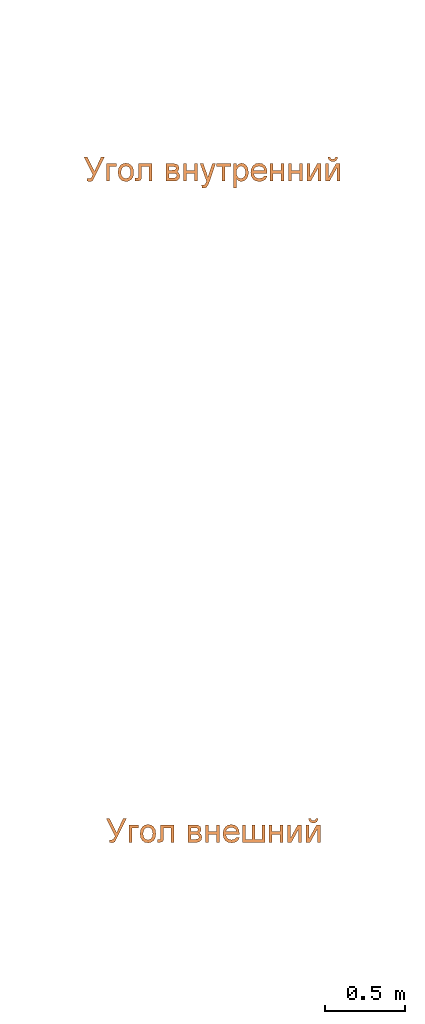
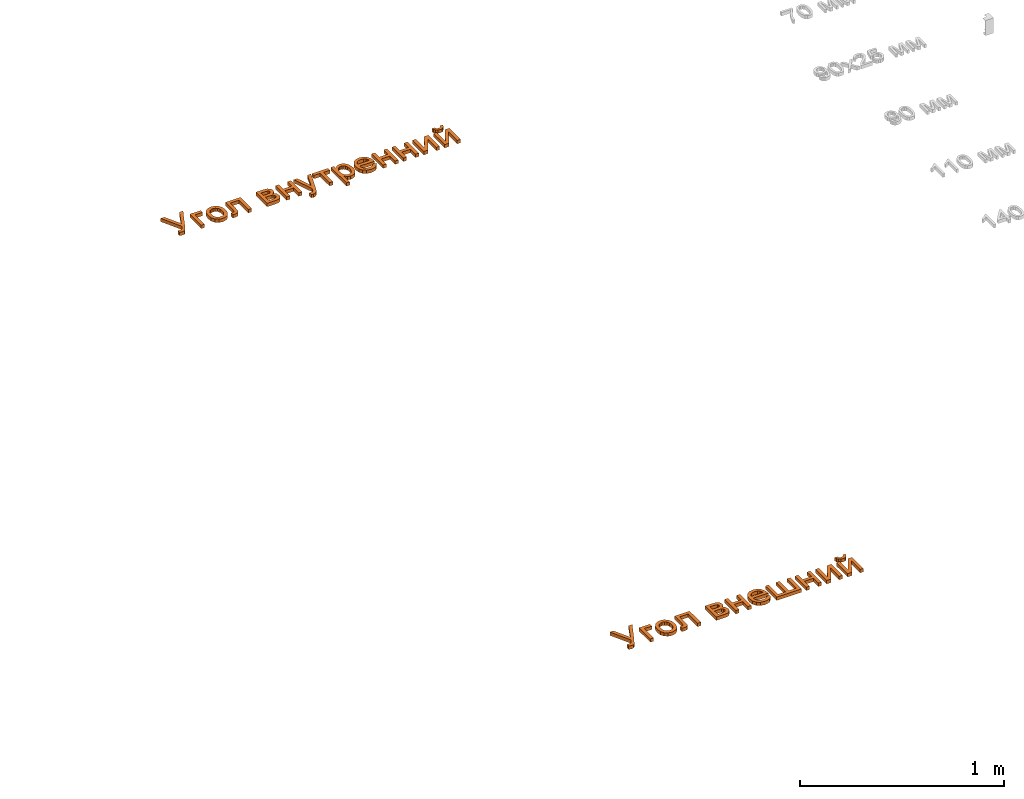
# One storey, part 24 of 87: 2 proxies.
"""IFC2X3 building model written with IfcOpenShell, lengths in millimetres."""

from ifc_helpers import new_model, entity, si_unit, converted_unit, derived_unit, direction, frame, origin, place, context, subcontext, project, spatial, polyline, outline, extrude, element, save


model = new_model("IFC2X3")

# Units and contexts
model_context = context("Model", 3, precision=0.01, world=origin(), true_north=direction((6.12303176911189e-17, 1.0)))
body_context = subcontext(model_context, "Body", "Model", "MODEL_VIEW")
ifc_project = project(units=[si_unit("LENGTHUNIT", "METRE", prefix="MILLI"), si_unit("AREAUNIT", "SQUARE_METRE"), si_unit("VOLUMEUNIT", "CUBIC_METRE"), converted_unit("PLANEANGLEUNIT", "DEGREE", entity("IfcRatioMeasure", 0.0174532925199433), si_unit("PLANEANGLEUNIT", "RADIAN"), dimensions=[0, 0, 0, 0, 0, 0, 0]), si_unit("MASSUNIT", "GRAM", prefix="KILO"), derived_unit("MASSDENSITYUNIT", [(si_unit("MASSUNIT", "GRAM", prefix="KILO"), 1), (si_unit("LENGTHUNIT", "METRE"), -3)]), si_unit("TIMEUNIT", "SECOND"), si_unit("FREQUENCYUNIT", "HERTZ"), si_unit("THERMODYNAMICTEMPERATUREUNIT", "DEGREE_CELSIUS"), derived_unit("THERMALTRANSMITTANCEUNIT", [(si_unit("MASSUNIT", "GRAM", prefix="KILO"), 1), (si_unit("THERMODYNAMICTEMPERATUREUNIT", "KELVIN"), -1), (si_unit("TIMEUNIT", "SECOND"), -3)]), derived_unit("VOLUMETRICFLOWRATEUNIT", [(si_unit("LENGTHUNIT", "METRE"), 3), (si_unit("TIMEUNIT", "SECOND"), -1)]), si_unit("ELECTRICCURRENTUNIT", "AMPERE"), si_unit("ELECTRICVOLTAGEUNIT", "VOLT"), si_unit("POWERUNIT", "WATT"), si_unit("FORCEUNIT", "NEWTON", prefix="KILO"), si_unit("ILLUMINANCEUNIT", "LUX"), si_unit("LUMINOUSFLUXUNIT", "LUMEN"), si_unit("LUMINOUSINTENSITYUNIT", "CANDELA"), derived_unit("USERDEFINED", [(si_unit("MASSUNIT", "GRAM", prefix="KILO"), -1), (si_unit("LENGTHUNIT", "METRE"), -2), (si_unit("TIMEUNIT", "SECOND"), 3), (si_unit("LUMINOUSFLUXUNIT", "LUMEN"), 1)]), derived_unit("LINEARVELOCITYUNIT", [(si_unit("LENGTHUNIT", "METRE"), 1), (si_unit("TIMEUNIT", "SECOND"), -1)]), si_unit("PRESSUREUNIT", "PASCAL"), derived_unit("USERDEFINED", [(si_unit("LENGTHUNIT", "METRE"), -2), (si_unit("MASSUNIT", "GRAM", prefix="KILO"), 1), (si_unit("TIMEUNIT", "SECOND"), -2)])], contexts=[model_context])

# Site, building, storey
site_placement = place(None, origin())
site = spatial("IfcSite", under=ifc_project, at=site_placement, Name="Default", CompositionType="ELEMENT")
building_placement = place(site_placement, origin())
building = spatial("IfcBuilding", under=site, at=building_placement, Name="Наименование здания", CompositionType="ELEMENT")
storey_placement = place(building_placement, origin())
storey = spatial("IfcBuildingStorey", under=building, at=storey_placement, Name="Этаж 01", CompositionType="ELEMENT", Elevation=0.0)

# Proxies
proxy_1_placement = place(storey_placement, origin())
element("IfcBuildingElementProxy", 1, at=proxy_1_placement, inside=storey, Name="Текст модели:150 мм Arial", ObjectType="Текст модели:150 мм Arial", context=body_context, shape_type="SweptSolid", body=[
    extrude(outline(polyline([(-106.701123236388, 2.54904117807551), (-97.296241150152, -16.069290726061), (2.68445330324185, -16.0537927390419), (-58.6980742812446, -92.4799756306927), (-49.3761276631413, -110.934124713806), (29.6124181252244, -6.94385161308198), (48.3399438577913, 19.9502964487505), (49.5661580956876, 28.8436959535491), (46.5690129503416, 38.5506036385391), (36.8208226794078, 52.6266857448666), (22.1100419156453, 45.1956678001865), (28.7946406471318, 31.9625324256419), (30.0108133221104, 20.2534710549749), (17.5632614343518, 2.54904117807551), (-106.701123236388, 2.54904117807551)])), frame((8746.61851500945, -9030.83626034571, 0.0), z_axis=(0.0, 0.0, -1.0), x_axis=(0.450880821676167, -0.892584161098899, 0.0)), (0.0, 0.0, -1.0), 20.0),
    extrude(outline(polyline([(-43.1648207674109, -26.6837073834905), (67.4940833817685, -26.6837073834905), (67.4940833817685, -7.84814923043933), (-24.3292626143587, -7.84814923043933), (-24.3292626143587, 34.5318566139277), (-43.1648207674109, 34.5318566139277), (-43.1648207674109, -26.6837073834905)])), frame((8865.36140702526, -9019.93622339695, 0.0), z_axis=(0.0, 0.0, 1.0), x_axis=(0.0, -1.0, 0.0)), (0.0, 0.0, 1.0), 20.0),
    extrude(outline(polyline([(-11.1946000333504, -52.2426443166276), (13.7256178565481, -52.2426443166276), (33.0962748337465, -44.5759588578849), (46.3022849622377, -30.4665992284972), (52.7285623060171, -11.1385767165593), (52.8795704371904, 2.26160042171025), (49.5396030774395, 15.0586597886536), (42.9102470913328, 26.3612191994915), (33.193089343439, 35.2778964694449), (19.4724914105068, 41.8007990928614), (0.832814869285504, 45.9220345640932), (-22.8762356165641, 45.7172545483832), (-41.8930612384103, 37.8901775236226), (-55.1425891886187, 23.7682718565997), (-61.5497466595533, 4.67900591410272), (-60.9951142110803, -13.6515433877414), (-53.9645370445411, -29.8701936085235), (-37.064672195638, -44.548758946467), (-11.1946000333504, -52.2426443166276)]), holes=[polyline([(-8.64857835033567, -33.5799173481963), (-25.2263685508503, -29.0848574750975), (-36.3325046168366, -20.9461821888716), (-42.1575488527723, -10.2052592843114), (-42.8920635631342, 2.09654344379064), (-38.8516378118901, 13.6120893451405), (-30.3014219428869, 22.3586496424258), (-17.5331679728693, 27.2345846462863), (-0.83862791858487, 27.1382546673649), (16.1172354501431, 22.5908646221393), (27.4101305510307, 14.4263394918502), (33.3060231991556, 3.69417972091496), (34.0708792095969, -8.55611424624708), (30.0134303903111, -20.1946478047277), (21.4625840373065, -28.9457632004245), (8.5360208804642, -33.7580048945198), (-8.64857835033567, -33.5799173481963)])]), frame((8962.59517308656, -9036.02697310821, 0.0), z_axis=(0.0, 0.0, 1.0), x_axis=(0.137105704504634, -0.990556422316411, 0.0)), (0.0, 0.0, 1.0), 20.0),
    extrude(outline(polyline([(-74.053495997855, 18.817164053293), (-74.053495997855, -65.9428476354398), (36.4950435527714, -65.9428476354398), (36.4950435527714, -47.1072894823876), (-55.2179378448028, -47.1072894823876), (-55.2179378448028, -0.0183940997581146), (-2.42687153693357, -0.0183940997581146), (21.9269165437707, 1.25079878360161), (32.2092183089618, 8.2221625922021), (36.6054081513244, 24.7032759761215), (35.6489149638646, 40.007166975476), (17.7698499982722, 40.007166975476), (17.7698499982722, 31.5826692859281), (16.6110217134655, 23.0662010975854), (12.9322017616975, 19.6632926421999), (-3.49372932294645, 18.817164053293), (-74.053495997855, 18.817164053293)])), frame((9057.62266907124, -9050.82489862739, 0.0), z_axis=(0.0, 0.0, -1.0), x_axis=(0.0, -1.0, 0.0)), (0.0, 0.0, -1.0), 20.0),
    extrude(outline(polyline([(-56.942877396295, -61.1019147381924), (53.7160267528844, -61.1019147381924), (53.7160267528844, -13.2404671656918), (51.7202669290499, 3.22225211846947), (45.7329874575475, 15.2335992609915), (35.6254296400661, 22.8211654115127), (21.2688347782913, 26.0125417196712), (3.51852851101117, 20.9725583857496), (-6.69019685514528, 8.31741775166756), (-16.0160054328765, 18.0662906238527), (-29.0942103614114, 21.3036521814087), (-45.1890476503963, 15.9509691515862), (-54.4228857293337, 3.14867571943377), (-56.942877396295, -19.6048256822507), (-56.942877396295, -61.1019147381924)]), holes=[polyline([(-14.562871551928, -42.2663565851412), (-38.1073192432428, -42.2663565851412), (-38.1073192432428, -23.0629164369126), (-35.4953570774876, -3.30765329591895), (-31.8809164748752, 1.02415719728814), (-26.2615189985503, 2.46809402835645), (-19.3453374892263, -0.824449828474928), (-15.5193647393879, -8.29245433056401), (-14.562871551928, -23.6515276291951), (-14.562871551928, -42.2663565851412)]), polyline([(34.8804685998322, -42.2663565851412), (4.2726866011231, -42.2663565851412), (4.2726866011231, -21.0027772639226), (5.37633258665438, -4.42969338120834), (10.6554392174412, 3.9580161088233), (19.7237303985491, 7.17698356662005), (26.8376484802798, 5.56749983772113), (31.4775601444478, 1.32765984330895), (34.8804685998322, -19.1633672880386), (34.8804685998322, -42.2663565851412)])]), frame((9271.78188790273, -9033.71428002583, 0.0), z_axis=(0.0, 0.0, 1.0), x_axis=(0.0, -1.0, 0.0)), (0.0, 0.0, 1.0), 20.0),
    extrude(outline(polyline([(-54.1522296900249, -43.557228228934), (56.5066744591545, -43.557228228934), (56.5066744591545, -24.7216700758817), (7.06333430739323, -24.7216700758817), (7.06333430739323, 24.7216700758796), (56.5066744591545, 24.7216700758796), (56.5066744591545, 43.5572282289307), (-54.1522296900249, 43.5572282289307), (-54.1522296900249, 24.7216700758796), (-11.7722238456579, 24.7216700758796), (-11.7722238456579, -24.7216700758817), (-54.1522296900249, -24.7216700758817), (-54.1522296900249, -43.557228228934)])), frame((9364.89610554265, -9030.92363231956, 0.0), z_axis=(0.0, 0.0, 1.0), x_axis=(0.0, -1.0, 0.0)), (0.0, 0.0, 1.0), 20.0),
    extrude(outline(polyline([(-14.0627784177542, -63.689784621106), (-2.30982667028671, -63.689784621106), (11.223599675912, -56.6043892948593), (19.2677475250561, -41.4042581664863), (24.1483344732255, -15.3233337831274), (39.1861017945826, 103.403530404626), (19.867342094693, 99.4533686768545), (11.3764058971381, 32.0809099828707), (8.47999679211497, 9.33454668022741), (-3.6875008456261, 31.929600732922), (-36.7914083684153, 87.8681928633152), (-56.2543379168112, 83.8885523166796), (5.04686591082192, -16.1124679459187), (4.51901081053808, -20.8765214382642), (2.25144479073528, -35.4962883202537), (-1.9581535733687, -42.2710621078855), (-10.3000835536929, -46.0982994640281), (-20.0027604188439, -46.3925118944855), (-14.0627784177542, -63.689784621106)])), frame((9463.24322558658, -9070.22875782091, 0.0), z_axis=(0.0, 0.0, 1.0), x_axis=(0.97972889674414, -0.200327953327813, 0.0)), (0.0, 0.0, 1.0), 20.0),
    extrude(outline(polyline([(-37.082505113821, -44.7344506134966), (-18.2469469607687, -44.7344506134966), (-18.2469469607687, -9.41777907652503), (73.5763990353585, -9.41777907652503), (73.5763990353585, 9.41777907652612), (-18.2469469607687, 9.41777907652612), (-18.2469469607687, 44.7344506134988), (-37.082505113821, 44.7344506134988), (-37.082505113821, -44.7344506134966)])), frame((9573.26446761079, -9013.85390774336, 0.0), z_axis=(0.0, 0.0, 1.0), x_axis=(0.0, -1.0, 0.0)), (0.0, 0.0, 1.0), 20.0),
    extrude(outline(polyline([(-51.3898957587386, -92.5503727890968), (-32.5543376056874, -92.5503727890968), (-32.5543376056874, -35.4550871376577), (-20.6165668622, -47.6871634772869), (-4.22742397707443, -52.5248117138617), (7.98165973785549, -50.7175914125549), (19.5929352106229, -45.2959305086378), (29.5625372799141, -36.4851567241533), (36.8466007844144, -24.5105977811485), (41.3025714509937, -10.1034191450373), (42.7878950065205, 6.0052137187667), (37.5271824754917, 35.0311031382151), (30.9972770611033, 46.7849328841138), (21.9289858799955, 55.5589184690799), (10.7913584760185, 61.0219660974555), (-1.94655560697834, 62.8429819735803), (-19.531314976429, 57.6374517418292), (-32.5543376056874, 42.0208610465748), (-32.5543376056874, 60.4885372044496), (-51.3898957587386, 60.4885372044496), (-51.3898957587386, -92.5503727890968)]), holes=[polyline([(-32.5543376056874, 4.27616834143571), (-30.3792353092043, 21.3596884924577), (-23.8539284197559, 33.8354866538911), (-14.5051272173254, 41.4644395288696), (-3.85954198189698, 44.0074238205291), (6.7446565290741, 41.61619085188), (15.7485683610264, 34.4424919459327), (21.9013947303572, 22.4679330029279), (23.9523368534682, 5.67411992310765), (21.8508109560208, -11.8462600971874), (15.5462332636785, -24.0875334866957), (6.29859960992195, -31.2888235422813), (-4.63209417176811, -33.6892535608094), (-15.3880440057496, -31.371596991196), (-24.405751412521, -24.4186272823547), (-30.5171910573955, -12.6096152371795), (-32.5543376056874, 4.27616834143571)])]), frame((9685.86992736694, -9037.25993983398, 0.0)), (0.0, 0.0, 1.0), 20.0),
    extrude(outline(polyline([(-12.1519235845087, -30.5627594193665), (-23.3028322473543, -45.4710024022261), (-8.67600558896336, -50.3662606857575), (6.18277634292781, -49.9698260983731), (20.8164252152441, -44.1721168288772), (34.7678526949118, -32.8635510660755), (47.4570640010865, -14.3885693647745), (51.2430729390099, 5.61202992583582), (45.9060763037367, 25.8663302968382), (31.2262708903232, 45.1024152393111), (10.9154740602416, 59.677009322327), (-9.99269287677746, 64.6676720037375), (-29.9463894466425, 60.6331852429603), (-47.3937751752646, 48.1323309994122), (-58.8653278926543, 30.7635073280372), (-61.9660241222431, 11.0147969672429), (-56.1560561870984, -9.52443743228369), (-40.895616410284, -29.2648332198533), (-37.1706876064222, -32.7160206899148), (21.6964908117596, 28.1133970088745), (29.5607979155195, 15.965698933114), (31.7422008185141, 3.31507577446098), (28.7208128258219, -8.97205129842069), (20.9767472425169, -20.0292611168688), (5.30526907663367, -30.5627594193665), (-12.1519235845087, -30.5627594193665)]), holes=[polyline([(8.16121838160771, 41.2120477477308), (-37.6840592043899, -6.16140575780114), (-43.0633748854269, 2.58957596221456), (-44.705822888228, 11.1286426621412), (-41.8277013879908, 23.6248066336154), (-33.8073361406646, 35.0865524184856), (-23.7122716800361, 42.9855035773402), (-12.6145549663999, 46.8552978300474), (-1.62109020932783, 46.3720932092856), (8.16121838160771, 41.2120477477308)])]), frame((9796.91060105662, -9041.94648054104, 0.0), z_axis=(0.0, 0.0, -1.0), x_axis=(-0.695421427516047, -0.718602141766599, 0.0)), (0.0, 0.0, -1.0), 20.0),
    extrude(outline(polyline([(-54.1522296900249, -43.5572282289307), (56.5066744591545, -43.5572282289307), (56.5066744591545, -24.7216700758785), (7.06333430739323, -24.7216700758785), (7.06333430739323, 24.7216700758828), (56.5066744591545, 24.7216700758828), (56.5066744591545, 43.5572282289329), (-54.1522296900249, 43.5572282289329), (-54.1522296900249, 24.7216700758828), (-11.7722238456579, 24.7216700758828), (-11.7722238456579, -24.7216700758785), (-54.1522296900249, -24.7216700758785), (-54.1522296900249, -43.5572282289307)])), frame((9908.77284721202, -9030.92363231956, 0.0), z_axis=(0.0, 0.0, 1.0), x_axis=(0.0, -1.0, 0.0)), (0.0, 0.0, 1.0), 20.0),
    extrude(outline(polyline([(-54.1522296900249, -43.5572282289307), (56.5066744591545, -43.5572282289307), (56.5066744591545, -24.7216700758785), (7.06333430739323, -24.7216700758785), (7.06333430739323, 24.7216700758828), (56.5066744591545, 24.7216700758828), (56.5066744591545, 43.5572282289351), (-54.1522296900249, 43.5572282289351), (-54.1522296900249, 24.7216700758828), (-11.7722238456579, 24.7216700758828), (-11.7722238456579, -24.7216700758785), (-54.1522296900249, -24.7216700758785), (-54.1522296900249, -43.5572282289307)])), frame((10024.1406408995, -9030.92363231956, 0.0), z_axis=(0.0, 0.0, 1.0), x_axis=(0.0, -1.0, 0.0)), (0.0, 0.0, 1.0), 20.0),
    extrude(outline(polyline([(-55.3809555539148, -44.7638811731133), (55.2779485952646, -44.7638811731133), (55.2779485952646, -20.1157874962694), (-28.5991463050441, 25.8694619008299), (55.2779485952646, 25.8694619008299), (55.2779485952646, 44.7050200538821), (-55.3809555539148, 44.7050200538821), (-55.3809555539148, 20.3512319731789), (29.0111741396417, -25.9283230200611), (-55.3809555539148, -25.9283230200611), (-55.3809555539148, -44.7638811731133)])), frame((10140.7150875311, -9032.15235818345, 0.0), z_axis=(0.0, 0.0, 1.0), x_axis=(0.0, -1.0, 0.0)), (0.0, 0.0, 1.0), 20.0),
    extrude(outline(polyline([(-18.908681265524, -8.80638330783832), (-25.1654169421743, -21.4719280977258), (-13.0047964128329, -24.0889504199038), (-2.33253524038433, -22.5548007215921), (6.51477397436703, -17.010944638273), (13.2005386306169, -7.5988478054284), (17.0548336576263, 4.29420862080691), (16.43011903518, 15.3019521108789), (11.377255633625, 25.1120324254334), (1.94710432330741, 33.4120993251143), (-4.30963135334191, 20.7465545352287), (2.85974295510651, 11.2962766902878), (1.28449863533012, 0.175114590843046), (-6.94780563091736, -8.80638330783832), (-18.908681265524, -8.80638330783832)])), frame((10258.6187706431, -8949.7984261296, 0.0), z_axis=(0.0, 0.0, -1.0), x_axis=(-0.442902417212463, -0.896569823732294, 0.0)), (0.0, 0.0, -1.0), 20.0),
    extrude(outline(polyline([(-55.3809555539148, -44.7638811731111), (55.2779485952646, -44.7638811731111), (55.2779485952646, -20.1157874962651), (-28.5991463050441, 25.8694619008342), (55.2779485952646, 25.8694619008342), (55.2779485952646, 44.7050200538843), (-55.3809555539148, 44.7050200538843), (-55.3809555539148, 20.3512319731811), (29.0111741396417, -25.9283230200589), (-55.3809555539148, -25.9283230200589), (-55.3809555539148, -44.7638811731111)])), frame((10258.4373259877, -9032.15235818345, 0.0), z_axis=(0.0, 0.0, 1.0), x_axis=(0.0, -1.0, 0.0)), (0.0, 0.0, 1.0), 20.0),
])
proxy_2_placement = place(storey_placement, origin())
element("IfcBuildingElementProxy", 2, at=proxy_2_placement, inside=storey, Name="Текст модели:150 мм Arial", ObjectType="Текст модели:150 мм Arial", context=body_context, shape_type="SweptSolid", body=[
    extrude(outline(polyline([(-106.70112323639, 2.54904117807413), (-97.2962411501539, -16.0692907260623), (2.68445330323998, -16.0537927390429), (-58.6980742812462, -92.4799756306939), (-49.3761276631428, -110.934124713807), (29.6124181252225, -6.94385161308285), (48.3399438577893, 19.9502964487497), (49.5661580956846, 28.8436959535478), (46.5690129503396, 38.5506036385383), (36.8208226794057, 52.6266857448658), (22.1100419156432, 45.1956678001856), (28.7946406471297, 31.9625324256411), (30.0108133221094, 20.2534710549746), (17.5632614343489, 2.54904117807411), (-106.70112323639, 2.54904117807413)])), frame((8885.32745437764, -13184.1258324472, 0.0), z_axis=(0.0, 0.0, -1.0), x_axis=(0.45088082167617, -0.892584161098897, 0.0)), (0.0, 0.0, -1.0), 20.0),
    extrude(outline(polyline([(-43.164820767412, -26.6837073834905), (67.4940833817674, -26.6837073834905), (67.4940833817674, -7.84814923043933), (-24.3292626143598, -7.84814923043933), (-24.3292626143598, 34.5318566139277), (-43.164820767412, 34.5318566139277), (-43.164820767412, -26.6837073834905)])), frame((9004.07034639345, -13173.2257954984, 0.0), z_axis=(0.0, 0.0, 1.0), x_axis=(0.0, -1.0, 0.0)), (0.0, 0.0, 1.0), 20.0),
    extrude(outline(polyline([(-11.19460003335, -52.2426443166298), (13.7256178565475, -52.2426443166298), (33.096274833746, -44.5759588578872), (46.3022849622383, -30.4665992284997), (52.7285623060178, -11.1385767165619), (52.8795704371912, 2.26160042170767), (49.5396030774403, 15.058659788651), (42.9102470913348, 26.3612191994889), (33.19308934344, 35.2778964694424), (19.4724914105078, 41.800799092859), (0.832814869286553, 45.9220345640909), (-22.8762356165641, 45.7172545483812), (-41.8930612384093, 37.8901775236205), (-55.1425891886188, 23.7682718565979), (-61.5497466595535, 4.67900591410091), (-60.9951142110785, -13.6515433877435), (-53.9645370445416, -29.8701936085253), (-37.0646721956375, -44.5487589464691), (-11.19460003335, -52.2426443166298)]), holes=[polyline([(-8.64857835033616, -33.5799173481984), (-25.2263685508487, -29.0848574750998), (-36.3325046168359, -20.9461821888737), (-42.1575488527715, -10.2052592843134), (-42.8920635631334, 2.09654344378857), (-38.8516378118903, 13.6120893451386), (-30.301421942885, 22.3586496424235), (-17.5331679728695, 27.2345846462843), (-0.83862791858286, 27.1382546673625), (16.1172354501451, 22.5908646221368), (27.4101305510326, 14.4263394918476), (33.3060231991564, 3.69417972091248), (34.0708792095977, -8.55611424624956), (30.0134303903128, -20.1946478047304), (21.4625840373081, -28.945763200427), (8.53602088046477, -33.7580048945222), (-8.64857835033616, -33.5799173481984)])]), frame((9101.30411245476, -13189.3165452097, 0.0), z_axis=(0.0, 0.0, 1.0), x_axis=(0.13710570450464, -0.99055642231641, 0.0)), (0.0, 0.0, 1.0), 20.0),
    extrude(outline(polyline([(-74.0534959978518, 18.8171640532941), (-74.0534959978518, -65.9428476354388), (36.4950435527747, -65.9428476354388), (36.4950435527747, -47.1072894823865), (-55.2179378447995, -47.1072894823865), (-55.2179378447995, -0.0183940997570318), (-2.42687153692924, -0.0183940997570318), (21.926916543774, 1.25079878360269), (32.209218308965, 8.22216259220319), (36.6054081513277, 24.7032759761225), (35.6489149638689, 40.0071669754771), (17.7698499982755, 40.0071669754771), (17.7698499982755, 31.5826692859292), (16.6110217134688, 23.0662010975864), (12.9322017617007, 19.663292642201), (-3.4937293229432, 18.8171640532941), (-74.0534959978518, 18.8171640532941)])), frame((9196.33160843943, -13204.1144707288, 0.0), z_axis=(0.0, 0.0, -1.0), x_axis=(0.0, -1.0, 0.0)), (0.0, 0.0, -1.0), 20.0),
    extrude(outline(polyline([(-56.9428773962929, -61.1019147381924), (53.7160267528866, -61.1019147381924), (53.7160267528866, -13.2404671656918), (51.7202669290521, 3.22225211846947), (45.7329874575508, 15.2335992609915), (35.6254296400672, 22.8211654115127), (21.2688347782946, 26.0125417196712), (3.51852851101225, 20.9725583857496), (-6.69019685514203, 8.31741775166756), (-16.0160054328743, 18.0662906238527), (-29.0942103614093, 21.3036521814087), (-45.1890476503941, 15.9509691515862), (-54.4228857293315, 3.14867571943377), (-56.9428773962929, -19.6048256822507), (-56.9428773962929, -61.1019147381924)]), holes=[polyline([(-14.562871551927, -42.2663565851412), (-38.1073192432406, -42.2663565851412), (-38.1073192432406, -23.0629164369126), (-35.4953570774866, -3.30765329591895), (-31.880916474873, 1.02415719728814), (-26.261518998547, 2.46809402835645), (-19.3453374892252, -0.824449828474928), (-15.5193647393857, -8.29245433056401), (-14.562871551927, -23.6515276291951), (-14.562871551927, -42.2663565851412)]), polyline([(34.8804685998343, -42.2663565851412), (4.27268660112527, -42.2663565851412), (4.27268660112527, -21.0027772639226), (5.37633258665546, -4.42969338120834), (10.6554392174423, 3.9580161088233), (19.7237303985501, 7.17698356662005), (26.837648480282, 5.56749983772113), (31.4775601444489, 1.32765984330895), (34.8804685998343, -19.1633672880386), (34.8804685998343, -42.2663565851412)])]), frame((9410.49082727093, -13187.0038521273, 0.0), z_axis=(0.0, 0.0, 1.0), x_axis=(0.0, -1.0, 0.0)), (0.0, 0.0, 1.0), 20.0),
    extrude(outline(polyline([(-54.1522296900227, -43.5572282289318), (56.5066744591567, -43.5572282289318), (56.5066744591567, -24.7216700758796), (7.0633343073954, -24.7216700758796), (7.0633343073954, 24.7216700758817), (56.5066744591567, 24.7216700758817), (56.5066744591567, 43.5572282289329), (-54.1522296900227, 43.5572282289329), (-54.1522296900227, 24.7216700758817), (-11.7722238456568, 24.7216700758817), (-11.7722238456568, -24.7216700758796), (-54.1522296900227, -24.7216700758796), (-54.1522296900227, -43.5572282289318)])), frame((9503.60504491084, -13184.213204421, 0.0), z_axis=(0.0, 0.0, 1.0), x_axis=(0.0, -1.0, 0.0)), (0.0, 0.0, 1.0), 20.0),
    extrude(outline(polyline([(-12.1519235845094, -30.5627594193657), (-23.3028322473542, -45.4710024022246), (-8.67600558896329, -50.3662606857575), (6.18277634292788, -49.9698260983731), (20.8164252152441, -44.1721168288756), (34.7678526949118, -32.863551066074), (47.4570640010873, -14.3885693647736), (51.2430729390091, 5.61202992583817), (45.9060763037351, 25.8663302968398), (31.2262708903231, 45.1024152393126), (10.9154740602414, 59.6770093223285), (-9.99269287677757, 64.667672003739), (-29.9463894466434, 60.6331852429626), (-47.3937751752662, 48.1323309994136), (-58.8653278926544, 30.7635073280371), (-61.9660241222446, 11.0147969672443), (-56.1560561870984, -9.52443743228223), (-40.8956164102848, -29.2648332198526), (-37.1706876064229, -32.716020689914), (21.6964908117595, 28.113397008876), (29.5607979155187, 15.9656989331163), (31.7422008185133, 3.31507577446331), (28.7208128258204, -8.97205129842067), (20.9767472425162, -20.029261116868), (5.3052690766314, -30.5627594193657), (-12.1519235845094, -30.5627594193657)]), holes=[polyline([(8.16121838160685, 41.2120477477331), (-37.6840592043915, -6.16140575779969), (-43.0633748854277, 2.58957596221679), (-44.7058228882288, 11.1286426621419), (-41.8277013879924, 23.6248066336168), (-33.8073361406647, 35.0865524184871), (-23.7122716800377, 42.9855035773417), (-12.6145549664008, 46.8552978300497), (-1.6210902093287, 46.3720932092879), (8.16121838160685, 41.2120477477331)])]), frame((9622.47838613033, -13195.2360526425, 0.0), z_axis=(0.0, 0.0, -1.0), x_axis=(-0.695421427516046, -0.7186021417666, 0.0)), (0.0, 0.0, -1.0), 20.0),
    extrude(outline(polyline([(-49.0509326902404, -70.6333430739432), (61.607971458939, -70.6333430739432), (61.607971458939, 70.6333430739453), (-49.0509326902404, 70.6333430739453), (-49.0509326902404, 51.7977849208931), (42.7724133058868, 51.7977849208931), (42.7724133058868, 9.4177790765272), (-49.0509326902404, 9.4177790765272), (-49.0509326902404, -9.41777907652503), (42.7724133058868, -9.41777907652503), (42.7724133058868, -51.7977849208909), (-49.0509326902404, -51.7977849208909), (-49.0509326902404, -70.6333430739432)])), frame((9761.41674713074, -13179.1119074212, 0.0), z_axis=(0.0, 0.0, 1.0), x_axis=(0.0, -1.0, 0.0)), (0.0, 0.0, 1.0), 20.0),
    extrude(outline(polyline([(-54.1522296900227, -43.5572282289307), (56.5066744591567, -43.5572282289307), (56.5066744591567, -24.7216700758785), (7.0633343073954, -24.7216700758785), (7.0633343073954, 24.7216700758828), (56.5066744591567, 24.7216700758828), (56.5066744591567, 43.5572282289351), (-54.1522296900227, 43.5572282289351), (-54.1522296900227, 24.7216700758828), (-11.7722238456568, 24.7216700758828), (-11.7722238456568, -24.7216700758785), (-54.1522296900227, -24.7216700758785), (-54.1522296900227, -43.5572282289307)])), frame((9901.50621089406, -13184.213204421, 0.0), z_axis=(0.0, 0.0, 1.0), x_axis=(0.0, -1.0, 0.0)), (0.0, 0.0, 1.0), 20.0),
    extrude(outline(polyline([(-55.3809555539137, -44.7638811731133), (55.2779485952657, -44.7638811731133), (55.2779485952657, -20.1157874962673), (-28.599146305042, 25.8694619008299), (55.2779485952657, 25.8694619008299), (55.2779485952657, 44.7050200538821), (-55.3809555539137, 44.7050200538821), (-55.3809555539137, 20.3512319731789), (29.0111741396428, -25.9283230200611), (-55.3809555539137, -25.9283230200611), (-55.3809555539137, -44.7638811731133)])), frame((10018.0806575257, -13185.4419302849, 0.0), z_axis=(0.0, 0.0, 1.0), x_axis=(0.0, -1.0, 0.0)), (0.0, 0.0, 1.0), 20.0),
    extrude(outline(polyline([(-18.908681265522, -8.80638330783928), (-25.1654169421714, -21.4719280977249), (-13.00479641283, -24.0889504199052), (-2.33253524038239, -22.5548007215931), (6.51477397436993, -17.010944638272), (13.2005386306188, -7.59884780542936), (17.0548336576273, 4.29420862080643), (16.4301190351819, 15.3019521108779), (11.377255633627, 25.1120324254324), (1.94710432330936, 33.4120993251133), (-4.30963135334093, 20.7465545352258), (2.85974295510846, 11.2962766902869), (1.28449863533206, 0.175114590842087), (-6.94780563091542, -8.80638330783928), (-18.908681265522, -8.80638330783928)])), frame((10135.9843406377, -13103.0879982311, 0.0), z_axis=(0.0, 0.0, -1.0), x_axis=(-0.442902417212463, -0.896569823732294, 0.0)), (0.0, 0.0, -1.0), 20.0),
    extrude(outline(polyline([(-55.3809555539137, -44.7638811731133), (55.2779485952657, -44.7638811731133), (55.2779485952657, -20.1157874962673), (-28.599146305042, 25.8694619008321), (55.2779485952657, 25.8694619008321), (55.2779485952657, 44.7050200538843), (-55.3809555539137, 44.7050200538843), (-55.3809555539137, 20.3512319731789), (29.0111741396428, -25.9283230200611), (-55.3809555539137, -25.9283230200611), (-55.3809555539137, -44.7638811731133)])), frame((10135.8028959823, -13185.4419302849, 0.0), z_axis=(0.0, 0.0, 1.0), x_axis=(0.0, -1.0, 0.0)), (0.0, 0.0, 1.0), 20.0),
])

save(model, "model.ifc")
